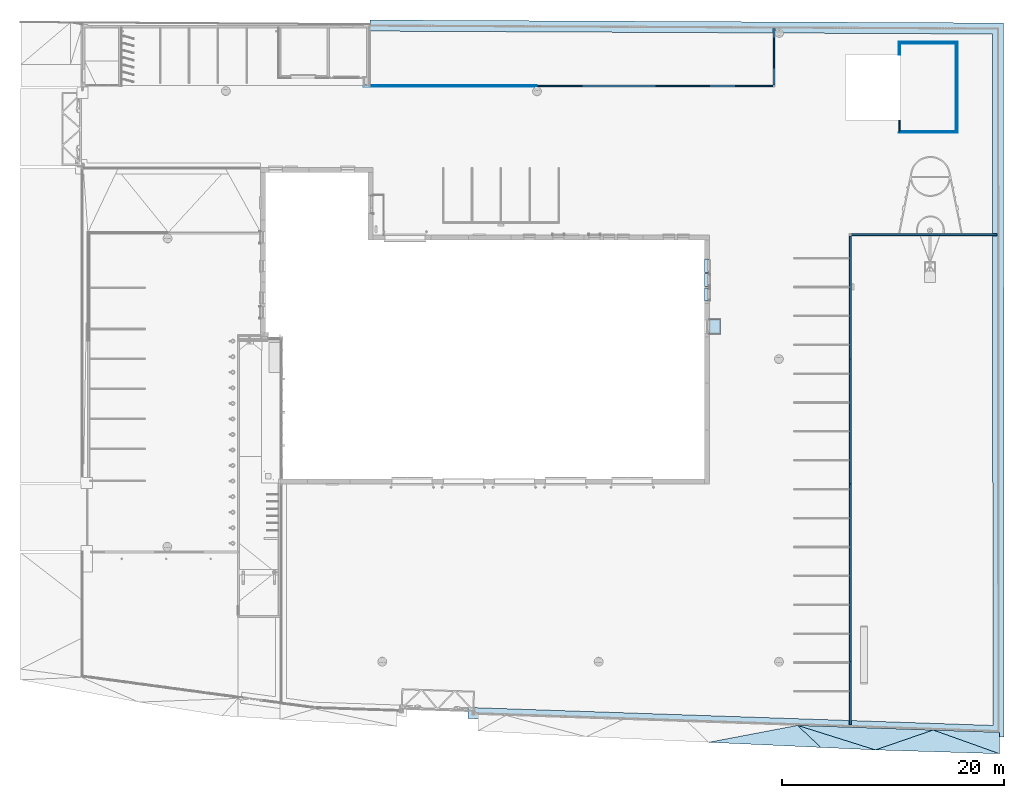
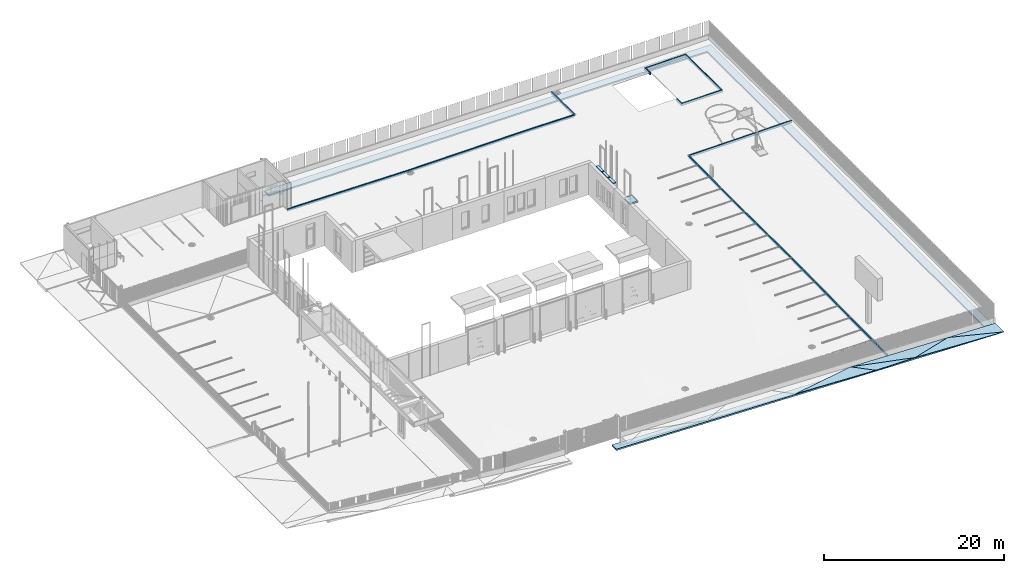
# One storey, part 11 of 77: 30 slabs, 6 elements without a shape of their own.
"""IFC2X3 building model written with IfcOpenShell, lengths in millimetres."""

from ifc_helpers import new_model, entity, si_unit, converted_unit, derived_unit, direction, frame, frame_2d, origin, origin_2d_with_axis, place, context, subcontext, project, spatial, polyline, rectangle, outline, extrude, material, layer, layer_set, layer_usage, element, aggregate, save


model = new_model("IFC2X3")

# Units and contexts
model_context = context("Model", 3, precision=0.01, world=origin(), true_north=direction((6.12303176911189e-17, 1.0)))
body_context = subcontext(model_context, "Body", "Model", "MODEL_VIEW")
ifc_project = project(units=[si_unit("LENGTHUNIT", "METRE", prefix="MILLI"), si_unit("AREAUNIT", "SQUARE_METRE"), si_unit("VOLUMEUNIT", "CUBIC_METRE"), converted_unit("PLANEANGLEUNIT", "DEGREE", entity("IfcRatioMeasure", 0.0174532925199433), si_unit("PLANEANGLEUNIT", "RADIAN"), dimensions=[0, 0, 0, 0, 0, 0, 0]), si_unit("MASSUNIT", "GRAM", prefix="KILO"), derived_unit("MASSDENSITYUNIT", [(si_unit("MASSUNIT", "GRAM", prefix="KILO"), 1), (si_unit("LENGTHUNIT", "METRE"), -3)]), si_unit("TIMEUNIT", "SECOND"), si_unit("FREQUENCYUNIT", "HERTZ"), si_unit("THERMODYNAMICTEMPERATUREUNIT", "DEGREE_CELSIUS"), derived_unit("THERMALTRANSMITTANCEUNIT", [(si_unit("MASSUNIT", "GRAM", prefix="KILO"), 1), (si_unit("THERMODYNAMICTEMPERATUREUNIT", "KELVIN"), -1), (si_unit("TIMEUNIT", "SECOND"), -3)]), derived_unit("VOLUMETRICFLOWRATEUNIT", [(si_unit("LENGTHUNIT", "METRE"), 3), (si_unit("TIMEUNIT", "SECOND"), -1)]), si_unit("ELECTRICCURRENTUNIT", "AMPERE"), si_unit("ELECTRICVOLTAGEUNIT", "VOLT"), si_unit("POWERUNIT", "WATT"), si_unit("FORCEUNIT", "NEWTON", prefix="KILO"), si_unit("ILLUMINANCEUNIT", "LUX"), si_unit("LUMINOUSFLUXUNIT", "LUMEN"), si_unit("LUMINOUSINTENSITYUNIT", "CANDELA"), derived_unit("USERDEFINED", [(si_unit("MASSUNIT", "GRAM", prefix="KILO"), -1), (si_unit("LENGTHUNIT", "METRE"), -2), (si_unit("TIMEUNIT", "SECOND"), 3), (si_unit("LUMINOUSFLUXUNIT", "LUMEN"), 1)]), derived_unit("LINEARVELOCITYUNIT", [(si_unit("LENGTHUNIT", "METRE"), 1), (si_unit("TIMEUNIT", "SECOND"), -1)]), si_unit("PRESSUREUNIT", "PASCAL"), derived_unit("USERDEFINED", [(si_unit("LENGTHUNIT", "METRE"), -2), (si_unit("MASSUNIT", "GRAM", prefix="KILO"), 1), (si_unit("TIMEUNIT", "SECOND"), -2)])], contexts=[model_context])

# Site, building, storey
site_placement = place(None, origin())
site = spatial("IfcSite", under=ifc_project, at=site_placement, Name="Default", CompositionType="ELEMENT")
building_placement = place(site_placement, origin())
building = spatial("IfcBuilding", under=site, at=building_placement, CompositionType="ELEMENT")
storey_placement = place(building_placement, origin())
storey = spatial("IfcBuildingStorey", under=building, at=storey_placement, Name="1. KORRUS", CompositionType="ELEMENT", Elevation=0.0)

# Roof, slab
roof_1_placement = place(storey_placement, frame((39950.0, 13040.0, 3200.0)))
roof_1 = element("IfcRoof", 1, at=roof_1_placement, inside=storey, Name="Basic Roof:varikatus_al", ObjectType="Basic Roof:varikatus_al", ShapeType="NOTDEFINED")
ifc_material_1 = material(Name="Õhkvahe- hor roovid")
ifc_layer_1 = layer(ifc_material_1, 20.0)
ifc_material_2 = material(Name="Must-al-komposiitplaat")
ifc_layer_2 = layer(ifc_material_2, 4.0)
ifc_layer_set_1 = layer_set([ifc_layer_1, ifc_layer_2], Name="Basic Roof:varikatus_al")
slab_1_placement = place(roof_1_placement, origin())
slab_1 = element("IfcSlab", 2, at=slab_1_placement, material=ifc_layer_set_1, Name="Basic Roof:varikatus_al", ObjectType="Basic Roof:varikatus_al", PredefinedType="ROOF", context=body_context, shape_type="SweptSolid", body=[
    extrude(rectangle(XDim=999.999999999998, YDim=1320.0, at=frame_2d((0.0, -1.08002495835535e-12), x_axis=(1.0, 0.0))), frame((500.0, 660.0, 0.0)), (0.0, 0.0, 1.0), 24.0),
])
aggregate(roof_1, [slab_1])

# Slabs
ifc_material_3 = material(Name="Soojusisolatsioon PIR fooliumkattega")
ifc_layer_3 = layer(ifc_material_3, 100.0)
ifc_layer_set_2 = layer_set([ifc_layer_3], Name="Floor:pir-paneel100")
ifc_layer_usage_1 = layer_usage(ifc_layer_set_2, "AXIS3", "POSITIVE", 0.0)
slab_2_placement = place(storey_placement, frame((39500.0, 16000.0, 4400.0)))
element("IfcSlab", 3, at=slab_2_placement, inside=storey, material=ifc_layer_usage_1, Name="Floor:pir-paneel100", ObjectType="Floor:pir-paneel100", PredefinedType="FLOOR", context=body_context, shape_type="SweptSolid", body=[
    extrude(rectangle(XDim=349.999999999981, YDim=1200.0, at=frame_2d((0.0, 1300.0), x_axis=(1.0, 0.0))), frame((175.0, 1900.0, 100.0), z_axis=(0.0, 0.0, -1.0), x_axis=(-1.0, 0.0, 0.0)), (0.0, 0.0, 1.0), 100.0),
])
slab_3_placement = place(storey_placement, frame((39500.0, 16000.0, 4400.0)))
element("IfcSlab", 4, at=slab_3_placement, inside=storey, material=ifc_layer_usage_1, Name="Floor:pir-paneel100:2", ObjectType="Floor:pir-paneel100", PredefinedType="FLOOR", context=body_context, shape_type="SweptSolid", body=[
    extrude(rectangle(XDim=349.999999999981, YDim=1200.0, at=origin_2d_with_axis()), frame((175.0, 1900.0, 100.0), z_axis=(0.0, 0.0, -1.0), x_axis=(-1.0, 0.0, 0.0)), (0.0, 0.0, 1.0), 100.0),
])
slab_4_placement = place(storey_placement, frame((39500.0, 16000.0, 4400.0)))
element("IfcSlab", 5, at=slab_4_placement, inside=storey, material=ifc_layer_usage_1, Name="Floor:pir-paneel100:3", ObjectType="Floor:pir-paneel100", PredefinedType="FLOOR", context=body_context, shape_type="SweptSolid", body=[
    extrude(rectangle(XDim=349.999999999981, YDim=1200.0, at=frame_2d((0.0, -1300.0), x_axis=(1.0, 0.0))), frame((175.0, 1900.0, 100.0), z_axis=(0.0, 0.0, -1.0), x_axis=(-1.0, 0.0, 0.0)), (0.0, 0.0, 1.0), 100.0),
])

# Roof, slab
roof_2_placement = place(storey_placement, frame((39930.0, 13045.0, 3376.0)))
roof_2 = element("IfcRoof", 6, at=roof_2_placement, inside=storey, Name="Basic Roof:varikatus_al yleval", ObjectType="Basic Roof:varikatus_al yleval", ShapeType="NOTDEFINED")
ifc_layer_4 = layer(ifc_material_2, 4.0)
ifc_layer_5 = layer(ifc_material_1, 20.0)
ifc_layer_set_3 = layer_set([ifc_layer_4, ifc_layer_5], Name="Basic Roof:varikatus_al yleval")
slab_5_placement = place(roof_2_placement, origin())
slab_5 = element("IfcSlab", 7, at=slab_5_placement, material=ifc_layer_set_3, Name="Basic Roof:varikatus_al yleval", ObjectType="Basic Roof:varikatus_al yleval", PredefinedType="ROOF", context=body_context, shape_type="SweptSolid", body=[
    extrude(rectangle(XDim=1015.13953647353, YDim=1311.0, at=origin_2d_with_axis()), frame((507.499999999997, 655.500000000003, 8.41543985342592), z_axis=(0.0165798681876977, 0.0, 0.999862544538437), x_axis=(0.999862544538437, 0.0, -0.0165798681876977)), (-0.0165798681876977, 0.0, 0.999862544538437), 24.0032993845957),
])
aggregate(roof_2, [slab_5])

# Slabs
slab_6_placement = place(storey_placement, frame((19120.3892851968, -24741.7968645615, -270.0)))
slab_6 = element("IfcSlab", 8, at=slab_6_placement, inside=storey, Name="Floor:Muru-ymbrus", ObjectType="Floor:Muru-ymbrus", PredefinedType="NOTDEFINED")
slab_7_placement = place(slab_6_placement, origin())
slab_7 = element("IfcSlab", 9, at=slab_7_placement, Name="Floor:Muru-ymbrus", ObjectType="Floor:Muru-ymbrus", PredefinedType="NOTDEFINED", context=body_context, shape_type="SweptSolid", body=[
    extrude(outline(polyline([(-5618.2689586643, -809.826508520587), (5560.09592244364, -1142.84662095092), (-415.185554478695, 989.572090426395), (-5618.2689586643, -809.826508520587)])), frame((41391.5913002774, 1147.30571883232, 110.628168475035), z_axis=(0.0211950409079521, 0.0499265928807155, 0.998527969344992), x_axis=(0.999775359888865, -0.00105843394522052, -0.0211685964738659)), (0.0211685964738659, 0.0499378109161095, -0.998527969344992), 50.0),
])
slab_8_placement = place(slab_6_placement, origin())
slab_8 = element("IfcSlab", 10, at=slab_8_placement, Name="Floor:Muru-ymbrus", ObjectType="Floor:Muru-ymbrus", PredefinedType="NOTDEFINED", context=body_context, shape_type="SweptSolid", body=[
    extrude(outline(polyline([(906.632515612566, -2008.61423471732), (6108.68089032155, -206.225559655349), (-6108.68089032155, 206.225559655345), (906.632515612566, -2008.61423471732)])), frame((34867.9752322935, 2345.42303646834, 95.0), z_axis=(0.00717199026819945, 0.0903464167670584, 0.995884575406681), x_axis=(0.999974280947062, -0.000647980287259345, -0.00714265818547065)), (0.00714265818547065, 0.0903487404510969, -0.995884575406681), 50.0),
])
slab_9_placement = place(slab_6_placement, origin())
slab_9 = element("IfcSlab", 11, at=slab_9_placement, Name="Floor:Muru-ymbrus", ObjectType="Floor:Muru-ymbrus", PredefinedType="NOTDEFINED", context=body_context, shape_type="SweptSolid", body=[
    extrude(outline(polyline([(3698.36871146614, -500.083243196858), (-3320.38002230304, 1703.84590957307), (-1210.91573654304, -280.991893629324), (3698.36871146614, -500.083243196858)])), frame((32078.1209579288, 848.275096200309, 168.419909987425), z_axis=(-0.0320943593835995, -0.0340721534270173, 0.998903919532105), x_axis=(0.999484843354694, -0.00109408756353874, 0.0320757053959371)), (-0.0320757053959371, -0.0340897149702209, -0.998903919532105), 50.0),
])
slab_10_placement = place(slab_6_placement, origin())
slab_10 = element("IfcSlab", 12, at=slab_10_placement, Name="Floor:Muru-ymbrus", ObjectType="Floor:Muru-ymbrus", PredefinedType="NOTDEFINED", context=body_context, shape_type="SweptSolid", body=[
    extrude(outline(polyline([(2986.98633384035, -1068.04129776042), (2986.98633384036, 863.313100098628), (-2986.98633384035, 1068.04129776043), (2986.98633384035, -1068.04129776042)])), frame((43963.4686076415, 1068.04129776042, 60.0), z_axis=(0.00334785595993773, 0.0, 0.999994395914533), x_axis=(0.999994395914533, 0.0, -0.00334785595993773)), (0.00334785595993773, 0.0, -0.999994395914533), 50.0),
])
slab_11_placement = place(slab_6_placement, origin())
slab_11 = element("IfcSlab", 13, at=slab_11_placement, Name="Floor:Muru-ymbrus", ObjectType="Floor:Muru-ymbrus", PredefinedType="NOTDEFINED", context=body_context, shape_type="SweptSolid", body=[
    extrude(outline(polyline([(2940.43828965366, 1755.27511096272), (-5048.84442219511, 230.686685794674), (5048.84442219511, -230.686685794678), (2940.43828965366, 1755.27511096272)])), frame((25819.0529802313, 799.599701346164, 145.0), z_axis=(0.00520414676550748, 0.00552484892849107, 0.999971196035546), x_axis=(0.999986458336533, -2.87525140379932e-05, -0.00520406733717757)), (0.00520406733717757, 0.00552492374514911, -0.999971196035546), 50.0),
])
aggregate(slab_6, [slab_7, slab_8, slab_9, slab_10, slab_11])

slab_12_placement = place(storey_placement, frame((8824.76481329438, 35299.999434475, -480.0)))
slab_12 = element("IfcSlab", 14, at=slab_12_placement, inside=storey, Name="Floor:äärekivi", ObjectType="Floor:äärekivi", PredefinedType="NOTDEFINED")
slab_13_placement = place(slab_12_placement, origin())
slab_13 = element("IfcSlab", 15, at=slab_13_placement, Name="Floor:äärekivi", ObjectType="Floor:äärekivi", PredefinedType="NOTDEFINED", context=body_context, shape_type="SweptSolid", body=[
    extrude(rectangle(XDim=5090.24557364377, YDim=150.000000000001, at=frame_2d((4.33431068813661e-12, -2.27373675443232e-12), x_axis=(0.0, -1.0))), frame((36940.2593711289, 2694.74532966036, 355.0), z_axis=(0.0, 0.00982270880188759, 0.999951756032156), x_axis=(1.0, 0.0, 0.0)), (0.0, 0.00982270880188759, -0.999951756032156), 300.0),
])
slab_14_placement = place(slab_12_placement, origin())
slab_14 = element("IfcSlab", 16, at=slab_14_placement, Name="Floor:äärekivi", ObjectType="Floor:äärekivi", PredefinedType="NOTDEFINED", context=body_context, shape_type="SweptSolid", body=[
    extrude(rectangle(XDim=5746.68677077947, YDim=149.745329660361, at=frame_2d((4.32009983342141e-12, 2.16715534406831e-12), x_axis=(-1.0, 0.0))), frame((33992.0247461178, 74.8726648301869, 405.0), z_axis=(0.00870066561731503, 0.0, 0.99996214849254), x_axis=(0.99996214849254, 0.0, -0.00870066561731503)), (0.00870066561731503, 0.0, -0.99996214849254), 300.0),
])
slab_15_placement = place(slab_12_placement, origin())
slab_15 = element("IfcSlab", 17, at=slab_15_placement, Name="Floor:äärekivi", ObjectType="Floor:äärekivi", PredefinedType="NOTDEFINED", context=body_context, shape_type="SweptSolid", body=[
    extrude(outline(polyline([(7724.65124632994, -74.8726648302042), (7724.65124632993, 74.8726648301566), (-7724.65124632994, 74.8726648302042), (7724.65124632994, -74.8726648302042)])), frame((7874.1269330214, 74.8726648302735, 390.0), z_axis=(0.0116510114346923, 0.0, 0.999932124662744), x_axis=(0.999932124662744, 0.0, -0.0116510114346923)), (0.0116510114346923, 0.0, -0.999932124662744), 300.0),
])
slab_16_placement = place(slab_12_placement, origin())
slab_16 = element("IfcSlab", 18, at=slab_16_placement, Name="Floor:äärekivi", ObjectType="Floor:äärekivi", PredefinedType="NOTDEFINED", context=body_context, shape_type="SweptSolid", body=[
    extrude(rectangle(XDim=15521.0806854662, YDim=149.745329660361, at=frame_2d((2.27373675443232e-12, 2.16715534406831e-12), x_axis=(1.0, 0.0))), frame((23358.5219935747, 74.8726648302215, 365.0), z_axis=(-0.00837570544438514, 0.0, 0.999964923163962), x_axis=(0.999964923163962, 0.0, 0.00837570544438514)), (-0.00837570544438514, 0.0, -0.999964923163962), 300.0),
])
slab_17_placement = place(slab_12_placement, origin())
slab_17 = element("IfcSlab", 19, at=slab_17_placement, Name="Floor:äärekivi", ObjectType="Floor:äärekivi", PredefinedType="NOTDEFINED", context=body_context, shape_type="SweptSolid", body=[
    extrude(outline(polyline([(7799.64613525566, -1.0402745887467), (-7649.63614947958, 150.775600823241), (-7799.64613525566, 1.04027458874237), (7799.64613525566, -1.0402745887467)])), frame((7799.1269330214, 0.0, 390.0), z_axis=(0.0115382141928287, -0.0115578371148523, 0.999866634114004), x_axis=(0.99993343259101, 0.000133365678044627, -0.011537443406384)), (0.011537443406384, -0.0115586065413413, -0.999866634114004), 300.0),
])
aggregate(slab_12, [slab_13, slab_14, slab_15, slab_16, slab_17])

slab_18_placement = place(storey_placement, frame((52550.0, -22152.1038850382, -460.0)))
slab_18 = element("IfcSlab", 20, at=slab_18_placement, inside=storey, Name="Floor:äärekivi", ObjectType="Floor:äärekivi", PredefinedType="NOTDEFINED")
slab_19_placement = place(slab_18_placement, origin())
slab_19 = element("IfcSlab", 21, at=slab_19_placement, Name="Floor:äärekivi", ObjectType="Floor:äärekivi", PredefinedType="NOTDEFINED", context=body_context, shape_type="SweptSolid", body=[
    extrude(rectangle(XDim=149.338015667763, YDim=13146.4384494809, at=frame_2d((0.0, 0.0), x_axis=(0.0, 1.0))), frame((6722.94538061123, 44129.3865541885, 600.0), z_axis=(-0.00912794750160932, 0.0, 0.999958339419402), x_axis=(0.999958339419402, 0.0, 0.00912794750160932)), (-0.00912794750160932, 0.0, -0.999958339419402), 300.0),
])
slab_20_placement = place(slab_18_placement, origin())
slab_20 = element("IfcSlab", 22, at=slab_20_placement, Name="Floor:äärekivi", ObjectType="Floor:äärekivi", PredefinedType="NOTDEFINED", context=body_context, shape_type="SweptSolid", body=[
    extrude(rectangle(XDim=5687.87707390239, YDim=150.000000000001, at=frame_2d((4.33431068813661e-12, 0.0), x_axis=(0.0, 1.0))), frame((75.0, 2843.8682110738, 320.0), z_axis=(0.0, 0.00703250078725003, 0.999975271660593), x_axis=(1.0, 0.0, 0.0)), (0.0, 0.00703250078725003, -0.999975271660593), 300.0),
])
slab_21_placement = place(slab_18_placement, origin())
slab_21 = element("IfcSlab", 23, at=slab_21_placement, Name="Floor:äärekivi", ObjectType="Floor:äärekivi", PredefinedType="NOTDEFINED", context=body_context, shape_type="SweptSolid", body=[
    extrude(rectangle(XDim=11090.8510003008, YDim=150.000000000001, at=frame_2d((0.0, 1.81898940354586e-12), x_axis=(0.0, -1.0))), frame((75.0, 38509.4746321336, 495.0), z_axis=(0.0, -0.00811479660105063, 0.999967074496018), x_axis=(1.0, 0.0, 0.0)), (0.0, -0.00811479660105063, -0.999967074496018), 300.0),
])
slab_22_placement = place(slab_18_placement, origin())
slab_22 = element("IfcSlab", 24, at=slab_22_placement, Name="Floor:äärekivi", ObjectType="Floor:äärekivi", PredefinedType="NOTDEFINED", context=body_context, shape_type="SweptSolid", body=[
    extrude(rectangle(XDim=11265.8015076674, YDim=150.000000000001, at=frame_2d((0.0, 0.0), x_axis=(0.0, -1.0))), frame((75.0, 27331.5107144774, 495.0), z_axis=(0.0, 0.00798877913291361, 0.999968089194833), x_axis=(1.0, 0.0, 0.0)), (0.0, 0.00798877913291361, -0.999968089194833), 300.0),
])
slab_23_placement = place(slab_18_placement, origin())
slab_23 = element("IfcSlab", 25, at=slab_23_placement, Name="Floor:äärekivi", ObjectType="Floor:äärekivi", PredefinedType="NOTDEFINED", context=body_context, shape_type="SweptSolid", body=[
    extrude(rectangle(XDim=150.000000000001, YDim=16012.8519452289, at=frame_2d((4.33431068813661e-12, 1.81898940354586e-12), x_axis=(1.0, 0.0))), frame((75.0, 13693.2630665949, 420.0), z_axis=(0.0, -0.0149879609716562, 0.999887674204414), x_axis=(1.0, 0.0, 0.0)), (0.0, -0.0149879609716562, -0.999887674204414), 300.0),
])
aggregate(slab_18, [slab_19, slab_20, slab_21, slab_22, slab_23])

slab_24_placement = place(storey_placement, frame((56995.0, 31155.0, -430.0)))
slab_24 = element("IfcSlab", 26, at=slab_24_placement, inside=storey, Name="Floor:äärekivi", ObjectType="Floor:äärekivi", PredefinedType="NOTDEFINED")
slab_25_placement = place(slab_24_placement, origin())
slab_25 = element("IfcSlab", 27, at=slab_25_placement, Name="Floor:äärekivi", ObjectType="Floor:äärekivi", PredefinedType="NOTDEFINED", context=body_context, shape_type="SweptSolid", body=[
    extrude(outline(polyline([(-2425.12123484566, -75.2462377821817), (2575.12873390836, -74.746262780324), (-2575.12873390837, 74.746262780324), (-2425.12123484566, -75.2462377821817)])), frame((2575.0, 8115.0, 325.0), z_axis=(-0.00999900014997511, -0.00999900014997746, 0.999900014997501), x_axis=(0.999950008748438, -9.9985002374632e-05, 0.00999850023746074)), (-0.00999850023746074, -0.00999950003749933, -0.999900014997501), 300.0),
])
slab_26_placement = place(slab_24_placement, origin())
slab_26 = element("IfcSlab", 28, at=slab_26_placement, Name="Floor:äärekivi", ObjectType="Floor:äärekivi", PredefinedType="NOTDEFINED", context=body_context, shape_type="SweptSolid", body=[
    extrude(outline(polyline([(150.050996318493, 425.246632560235), (0.0, 575.195618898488), (0.0, -575.195618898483), (150.050996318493, 425.246632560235)])), frame((0.0, 7615.0, 315.0), z_axis=(0.0260692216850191, 0.0260692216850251, 0.999320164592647), x_axis=(0.999660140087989, -0.000679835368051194, -0.0260603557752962)), (0.0260603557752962, 0.0260780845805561, -0.999320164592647), 300.0),
])
slab_27_placement = place(slab_24_placement, origin())
slab_27 = element("IfcSlab", 29, at=slab_27_placement, Name="Floor:äärekivi", ObjectType="Floor:äärekivi", PredefinedType="NOTDEFINED", context=body_context, shape_type="SweptSolid", body=[
    extrude(outline(polyline([(1.64891538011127, 511.222664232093), (-148.351084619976, -489.227234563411), (1.64891538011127, -489.227234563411), (1.64891538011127, 511.222664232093)])), frame((148.351084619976, 7529.00723079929, 315.329783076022), z_axis=(0.0, 0.029986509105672, 0.999550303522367), x_axis=(1.0, 0.0, 0.0)), (0.0, 0.029986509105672, -0.999550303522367), 300.0),
])
slab_28_placement = place(slab_24_placement, origin())
slab_28 = element("IfcSlab", 30, at=slab_28_placement, Name="Floor:äärekivi", ObjectType="Floor:äärekivi", PredefinedType="NOTDEFINED", context=body_context, shape_type="SweptSolid", body=[
    extrude(outline(polyline([(-75.0021684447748, 4020.11189828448), (-75.0021684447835, -3870.11623529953), (75.0021684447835, -4020.11189828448), (-75.0021684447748, 4020.11189828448)])), frame((5225.0, 4020.0, 380.0), z_axis=(0.00760412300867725, 0.00760412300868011, 0.999942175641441), x_axis=(0.99997108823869, -5.78243585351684e-05, -0.0076039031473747)), (0.0076039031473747, 0.0076043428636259, -0.999942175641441), 300.0),
])
slab_29_placement = place(slab_24_placement, origin())
slab_29 = element("IfcSlab", 31, at=slab_29_placement, Name="Floor:äärekivi", ObjectType="Floor:äärekivi", PredefinedType="NOTDEFINED", context=body_context, shape_type="SweptSolid", body=[
    extrude(outline(polyline([(-150.004025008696, 3945.11391375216), (0.0, -4095.10988863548), (0.0, 4095.10988863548), (-150.004025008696, 3945.11391375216)])), frame((5300.0, 4095.0, 380.0), z_axis=(-0.00732561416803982, 0.0073256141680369, 0.999946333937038), x_axis=(0.999973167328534, 5.36660629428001e-05, 0.00732541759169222)), (-0.00732541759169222, 0.00732581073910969, -0.999946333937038), 300.0),
])
slab_30_placement = place(slab_24_placement, origin())
slab_30 = element("IfcSlab", 32, at=slab_30_placement, Name="Floor:äärekivi", ObjectType="Floor:äärekivi", PredefinedType="NOTDEFINED", context=body_context, shape_type="SweptSolid", body=[
    extrude(outline(polyline([(2500.11123718, -150.229164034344), (2650.11791141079, -0.235838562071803), (-2650.11791141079, 0.235838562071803), (2500.11123718, -150.229164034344)])), frame((2650.0, 8190.0, 325.0), z_axis=(-0.00943312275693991, 0.00943312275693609, 0.999911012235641), x_axis=(0.999955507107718, 8.89877642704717e-05, 0.00943270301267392)), (-0.00943270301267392, 0.00943354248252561, -0.999911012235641), 300.0),
])
slab_31_placement = place(slab_24_placement, origin())
slab_31 = element("IfcSlab", 33, at=slab_31_placement, Name="Floor:äärekivi", ObjectType="Floor:äärekivi", PredefinedType="NOTDEFINED", context=body_context, shape_type="SweptSolid", body=[
    extrude(outline(polyline([(2575.04634791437, 74.9086516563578), (-2425.04364803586, 75.0886484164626), (-2575.04634791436, -74.9086516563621), (2575.04634791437, 74.9086516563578)])), frame((2575.0, 75.0, 395.0), z_axis=(-0.00599978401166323, 0.00599978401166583, 0.999964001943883), x_axis=(0.999982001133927, 3.59980561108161e-05, 0.00599967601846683)), (-0.00599967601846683, 0.00599989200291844, -0.999964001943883), 300.0),
])
slab_32_placement = place(slab_24_placement, origin())
slab_32 = element("IfcSlab", 34, at=slab_32_placement, Name="Floor:äärekivi", ObjectType="Floor:äärekivi", PredefinedType="NOTDEFINED", context=body_context, shape_type="SweptSolid", body=[
    extrude(outline(polyline([(2500.04004823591, 150.082501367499), (-2650.04245113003, -0.0849043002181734), (2650.04245113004, 0.0849043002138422), (2500.04004823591, 150.082501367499)])), frame((2650.0, 0.0, 395.0), z_axis=(-0.00566019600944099, -0.00566019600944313, 0.999967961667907), x_axis=(0.999983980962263, -3.20383320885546e-05, 0.0056601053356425)), (-0.0056601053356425, -0.00566028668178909, -0.999967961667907), 300.0),
])
slab_33_placement = place(slab_24_placement, origin())
slab_33 = element("IfcSlab", 35, at=slab_33_placement, Name="Floor:äärekivi", ObjectType="Floor:äärekivi", PredefinedType="NOTDEFINED", context=body_context, shape_type="SweptSolid", body=[
    extrude(outline(polyline([(75.0, -425.0), (75.0, 575.0), (-75.0, 575.0), (-75.0, -575.0), (75.0, -425.0)])), frame((75.0, 575.0, 380.0)), (0.0, 0.0, -1.0), 300.0),
])
aggregate(slab_24, [slab_25, slab_26, slab_27, slab_28, slab_29, slab_30, slab_31, slab_32, slab_33])

# Slab
ifc_material_4 = material(Name="r/b")
ifc_layer_6 = layer(ifc_material_4, 200.0)
ifc_layer_set_4 = layer_set([ifc_layer_6], Name="Floor:taldmik")
ifc_layer_usage_2 = layer_usage(ifc_layer_set_4, "AXIS3", "POSITIVE", 0.0)
slab_34_placement = place(storey_placement, frame((-17100.0, -23224.3932619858, -1500.0)))
element("IfcSlab", 36, at=slab_34_placement, inside=storey, material=ifc_layer_usage_2, Name="Floor:taldmik:3", ObjectType="Floor:taldmik", PredefinedType="FLOOR", context=body_context, shape_type="SweptSolid", body=[
    extrude(outline(polyline([(-41749.8060608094, 31999.1321941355), (-41785.5288215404, -32267.9471786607), (6488.28681359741, -30613.5929985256), (6454.03670229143, -29614.1797057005), (-40784.953432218, -31233.0701904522), (-40750.3591427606, 31003.8314628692), (15287.3345032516, 31267.9360726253), (15287.3345032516, 32267.9471786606), (-41749.8060608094, 31999.1321941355)])), frame((41785.5288215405, 32267.9471786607, 200.0), z_axis=(0.0, 0.0, -1.0), x_axis=(-1.0, 0.0, 0.0)), (0.0, 0.0, 1.0), 200.0),
])

save(model, "model.ifc")
